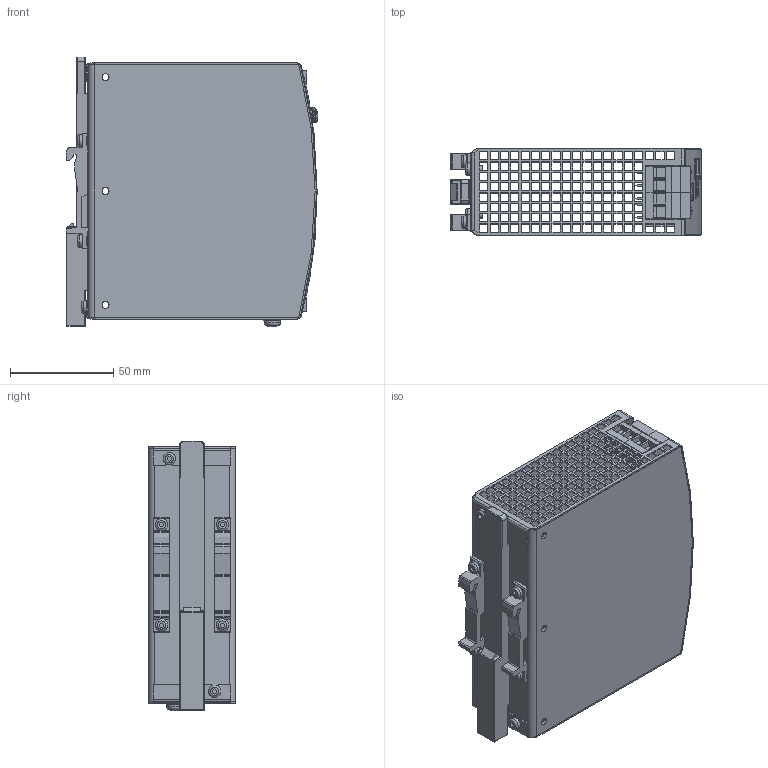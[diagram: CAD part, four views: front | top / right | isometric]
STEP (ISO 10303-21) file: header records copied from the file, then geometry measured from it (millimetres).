
FILE_DESCRIPTION(/* description */ ('HOUSING BODY','CAx-IF Rec.Pracs.---Representation and Presentation of Product Manufacturing Information (PMI)---3.8---2014-02-18'),/* implementation_level */ '2;1');
FILE_NAME(/* name */ 'L:\MKT-GER\Daten von KO\CD10.241 (421.00)\md3_cd10_241.stp',/* time_stamp */ '2016-06-15T07:02:30+02:00',/* author */ ('rahns'),/* organization */ (''),/* preprocessor_version */ 'ST-DEVELOPER v16.1',/* originating_system */ 'Autodesk Inventor 2016',/* authorisation */ '');
FILE_SCHEMA (('AP242_MANAGED_MODEL_BASED_3D_ENGINEERING_MIM_LF { 1 0 10303 442 1 1 4 }'));
Products named in the file (13): HOUSING BODY 421.00; SLIDER; T HOLDER; SCREW 3x6; HOUSING COVER 421.00; FRONTFOIL 421.00; LED GN; POTENTIOMETER COVER; TERMINAL 2P D1; TERMINAL 3P R6,35 T; SCREW 4x8; WASHER 4; 421.00
Assembly tree (19 placements, depth 2):
  421.00
    HOUSING BODY 421.00
    SLIDER
    T HOLDER  x2
    SCREW 3x6  x6
    HOUSING COVER 421.00
    FRONTFOIL 421.00
    LED GN
    POTENTIOMETER COVER
    TERMINAL 2P D1  x2
    TERMINAL 3P R6,35 T
    SCREW 4x8
    WASHER 4
Bounding box: 121.97 x 42 x 130.77 mm (x, y, z)
Volume: 78394.3 mm3; surface area: 109319.5 mm2
Topology: 19 solids, 19 shells, 2623 faces, 7358 edges, 4888 vertices
Faces by surface type: plane 1968, bspline 358, cylinder 239, torus 25, cone 20, sphere 13
Full cylindrical faces by diameter (mm): 2.45 x2, 3 x6, 3.1 x4, 3.4 x6, 3.621 x1, 4 x1, 4.355 x1, 4.5 x2, 4.6 x1, 5.15 x7, 6 x6
Entity records: 85927 total; most frequent: CARTESIAN_POINT 24009, ORIENTED_EDGE 13484, DIRECTION 10885, EDGE_CURVE 6742, LINE 5221, VECTOR 5221, VERTEX_POINT 4495, EDGE_LOOP 3099
